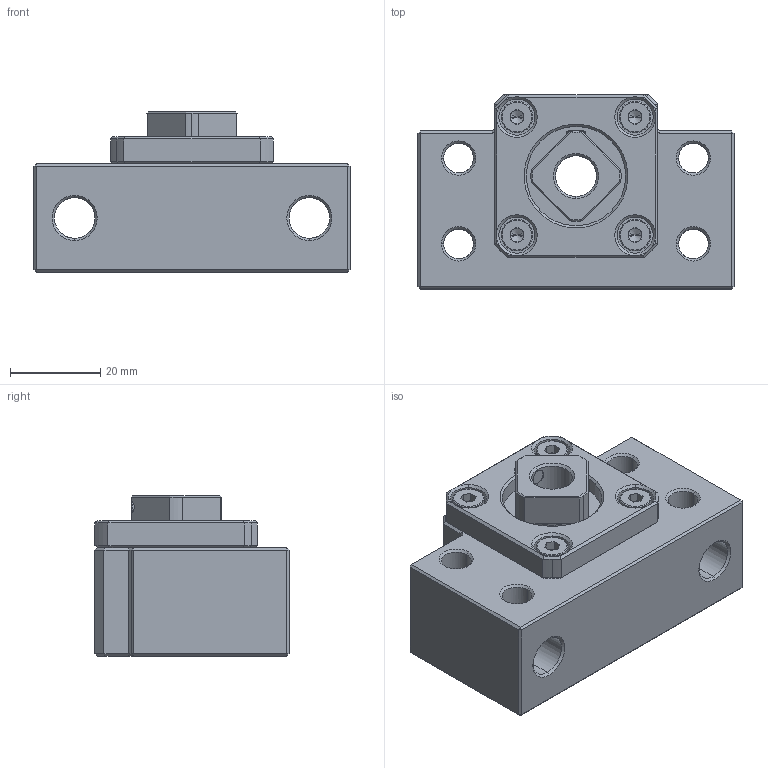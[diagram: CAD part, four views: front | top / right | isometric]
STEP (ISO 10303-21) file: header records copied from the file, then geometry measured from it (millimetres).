
FILE_DESCRIPTION (( 'STEP AP203' ), '1' );
FILE_NAME ('ASGK-10_203.STEP', '2013-02-27T23:43:15', ( '' ), ( '' ), 'SwSTEP 2.0', 'SolidWorks 2012', '' );
FILE_SCHEMA (( 'CONFIG_CONTROL_DESIGN' ));
Length unit declared in the file: millimetre
Products named in the file (1): ASGK-10_203
Bounding box: 70 x 43 x 35.5 mm (x, y, z)
Volume: 61190.7 mm3; surface area: 19711.5 mm2
Topology: 1 solids, 16 shells, 460 faces, 1047 edges, 605 vertices
Faces by surface type: plane 180, cylinder 128, cone 112, torus 40
Entity records: 13340 total; most frequent: CARTESIAN_POINT 2868, DIRECTION 2307, ORIENTED_EDGE 2058, EDGE_CURVE 1029, AXIS2_PLACEMENT_3D 904, VERTEX_POINT 605, EDGE_LOOP 506, VECTOR 499
